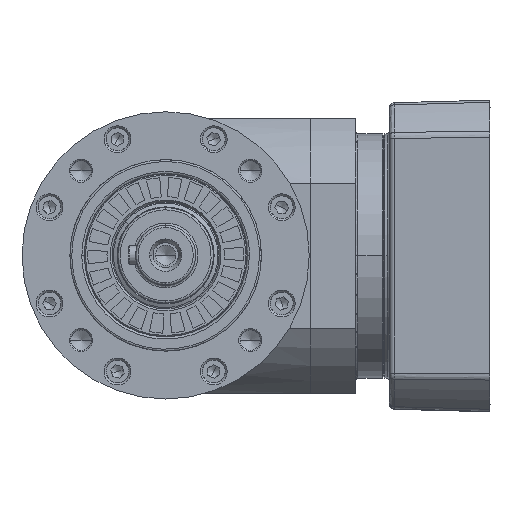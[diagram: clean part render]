
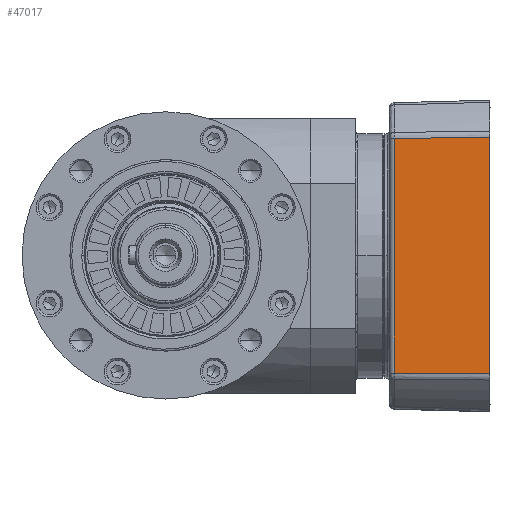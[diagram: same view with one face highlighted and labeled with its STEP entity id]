
A CAD part, top view. The second image highlights one B-rep face of the part: STEP entity #47017.
In plain terms, the highlighted planar face has unit normal (-0.026, 0, 1) as drawn and (-0.026, -1, 0) by its records, which use the part's own axes.
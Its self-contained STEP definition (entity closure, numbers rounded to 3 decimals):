
#6843 = CARTESIAN_POINT ( 'NONE',  ( -46766.354, -65., 49.409 ) ) ;
#7545 = VERTEX_POINT ( 'NONE', #60755 ) ;
#9144 = CARTESIAN_POINT ( 'NONE',  ( -46806.406, -63.951, 49.037 ) ) ;
#10290 = VECTOR ( 'NONE', #18982, 1000. ) ;
#13731 = CARTESIAN_POINT ( 'NONE',  ( -46806.406, -63.951, 50.806 ) ) ;
#15412 = VECTOR ( 'NONE', #44741, 1000. ) ;
#18678 = LINE ( 'NONE', #9144, #46719 ) ;
#18982 = DIRECTION ( 'NONE',  ( -1., 0.026, 0.009 ) ) ;
#26151 = FACE_OUTER_BOUND ( 'NONE', #36666, .T. ) ;
#26571 = EDGE_CURVE ( 'NONE', #33251, #38953, #35689, .T. ) ;
#26853 = DIRECTION ( 'NONE',  ( 0.026, 1., 0. ) ) ;
#29703 = CARTESIAN_POINT ( 'NONE',  ( -46806.406, -63.951, 49.037 ) ) ;
#33220 = ORIENTED_EDGE ( 'NONE', *, *, #48983, .F. ) ;
#33251 = VERTEX_POINT ( 'NONE', #54896 ) ;
#35689 = LINE ( 'NONE', #13731, #49699 ) ;
#36666 = EDGE_LOOP ( 'NONE', ( #33220, #55882, #55649, #64910 ) ) ;
#38953 = VERTEX_POINT ( 'NONE', #29703 ) ;
#39527 = EDGE_CURVE ( 'NONE', #7545, #33251, #52341, .T. ) ;
#39920 = CARTESIAN_POINT ( 'NONE',  ( -46766.354, -65., -49.409 ) ) ;
#41767 = LINE ( 'NONE', #55362, #15412 ) ;
#44741 = DIRECTION ( 'NONE',  ( 0., 0., -1. ) ) ;
#45954 = DIRECTION ( 'NONE',  ( 1., -0.026, 0.009 ) ) ;
#46719 = VECTOR ( 'NONE', #45954, 1000. ) ;
#47017 = ADVANCED_FACE ( 'NONE', ( #26151 ), #58433, .F. ) ;
#48983 = EDGE_CURVE ( 'NONE', #62075, #7545, #41767, .T. ) ;
#49102 = AXIS2_PLACEMENT_3D ( 'NONE', #52897, #26853, #63718 ) ;
#49699 = VECTOR ( 'NONE', #55865, 1000. ) ;
#52341 = LINE ( 'NONE', #39920, #10290 ) ;
#52897 = CARTESIAN_POINT ( 'NONE',  ( -46766.354, -65., 50.806 ) ) ;
#54896 = CARTESIAN_POINT ( 'NONE',  ( -46806.406, -63.951, -49.037 ) ) ;
#55362 = CARTESIAN_POINT ( 'NONE',  ( -46766.354, -65., 50.806 ) ) ;
#55649 = ORIENTED_EDGE ( 'NONE', *, *, #26571, .F. ) ;
#55865 = DIRECTION ( 'NONE',  ( 0., 0., 1. ) ) ;
#55882 = ORIENTED_EDGE ( 'NONE', *, *, #59737, .F. ) ;
#58433 = PLANE ( 'NONE',  #49102 ) ;
#59737 = EDGE_CURVE ( 'NONE', #38953, #62075, #18678, .T. ) ;
#60755 = CARTESIAN_POINT ( 'NONE',  ( -46766.354, -65., -49.409 ) ) ;
#62075 = VERTEX_POINT ( 'NONE', #6843 ) ;
#63718 = DIRECTION ( 'NONE',  ( -1., 0.026, 0. ) ) ;
#64910 = ORIENTED_EDGE ( 'NONE', *, *, #39527, .F. ) ;
